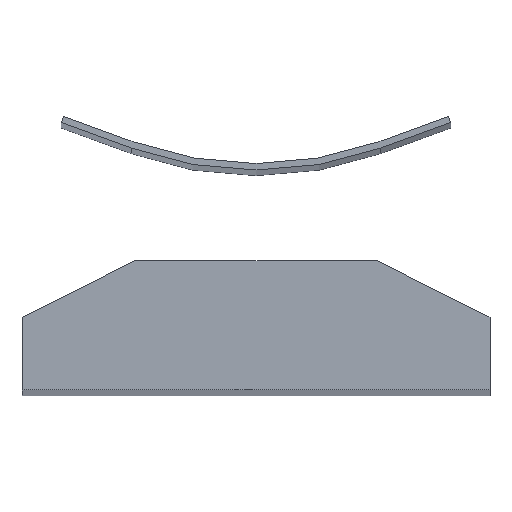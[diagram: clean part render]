
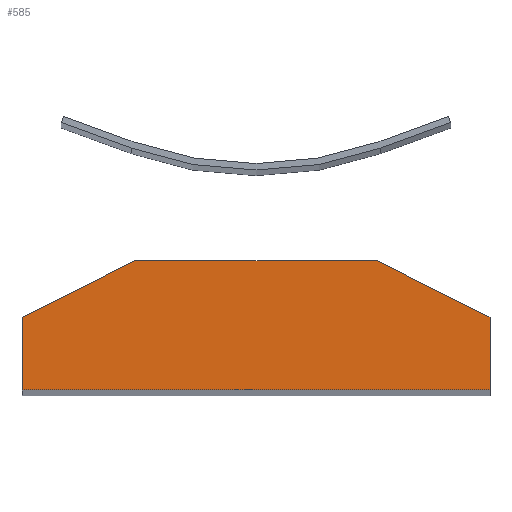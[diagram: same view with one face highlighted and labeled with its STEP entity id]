
A CAD part, top view. The second image highlights one B-rep face of the part: STEP entity #585.
In plain terms, the highlighted planar face has unit normal (0, 0, 1).
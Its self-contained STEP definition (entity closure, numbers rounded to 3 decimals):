
#1 = CARTESIAN_POINT ( 'NONE',  ( -150., 160., 2000. ) ) ;
#19 = CARTESIAN_POINT ( 'NONE',  ( 150., 160., 2000. ) ) ;
#39 = CARTESIAN_POINT ( 'NONE',  ( 290., 90., 2000. ) ) ;
#46 = DIRECTION ( 'NONE',  ( -0.894, 0.447, 0. ) ) ;
#67 = CARTESIAN_POINT ( 'NONE',  ( -290., 90., 2000. ) ) ;
#70 = DIRECTION ( 'NONE',  ( -1., 0., 0. ) ) ;
#71 = DIRECTION ( 'NONE',  ( -0.894, -0.447, 0. ) ) ;
#74 = DIRECTION ( 'NONE',  ( 1., 0., 0. ) ) ;
#84 = CARTESIAN_POINT ( 'NONE',  ( 0., 0., 2000. ) ) ;
#120 = CARTESIAN_POINT ( 'NONE',  ( -290., 0., 2000. ) ) ;
#148 = CARTESIAN_POINT ( 'NONE',  ( -290., 90., 2000. ) ) ;
#156 = DIRECTION ( 'NONE',  ( 0., -1., 0. ) ) ;
#162 = CARTESIAN_POINT ( 'NONE',  ( -290., 0., 2000. ) ) ;
#177 = FACE_OUTER_BOUND ( 'NONE', #446, .T. ) ;
#187 = DIRECTION ( 'NONE',  ( 0., 1., 0. ) ) ;
#193 = VERTEX_POINT ( 'NONE', #290 ) ;
#202 = CARTESIAN_POINT ( 'NONE',  ( 290., 90., 2000. ) ) ;
#203 = VECTOR ( 'NONE', #70, 1000. ) ;
#205 = VECTOR ( 'NONE', #71, 1000. ) ;
#208 = LINE ( 'NONE', #67, #205 ) ;
#213 = CARTESIAN_POINT ( 'NONE',  ( 150., 160., 2000. ) ) ;
#214 = LINE ( 'NONE', #1, #203 ) ;
#236 = LINE ( 'NONE', #213, #239 ) ;
#239 = VECTOR ( 'NONE', #46, 1000. ) ;
#240 = VECTOR ( 'NONE', #187, 1000. ) ;
#245 = LINE ( 'NONE', #202, #240 ) ;
#257 = VECTOR ( 'NONE', #74, 1000. ) ;
#260 = LINE ( 'NONE', #120, #257 ) ;
#285 = LINE ( 'NONE', #162, #293 ) ;
#286 = CARTESIAN_POINT ( 'NONE',  ( 290., 0., 2000. ) ) ;
#290 = CARTESIAN_POINT ( 'NONE',  ( -290., 0., 2000. ) ) ;
#293 = VECTOR ( 'NONE', #156, 1000. ) ;
#338 = ORIENTED_EDGE ( 'NONE', *, *, #552, .T. ) ;
#347 = CARTESIAN_POINT ( 'NONE',  ( -150., 160., 2000. ) ) ;
#377 = VERTEX_POINT ( 'NONE', #39 ) ;
#385 = DIRECTION ( 'NONE',  ( -1., 0., 0. ) ) ;
#403 = ORIENTED_EDGE ( 'NONE', *, *, #567, .T. ) ;
#409 = PLANE ( 'NONE',  #488 ) ;
#411 = ORIENTED_EDGE ( 'NONE', *, *, #565, .T. ) ;
#413 = VERTEX_POINT ( 'NONE', #286 ) ;
#419 = ORIENTED_EDGE ( 'NONE', *, *, #466, .T. ) ;
#424 = ORIENTED_EDGE ( 'NONE', *, *, #547, .T. ) ;
#427 = DIRECTION ( 'NONE',  ( 0., 0., -1. ) ) ;
#446 = EDGE_LOOP ( 'NONE', ( #419, #489, #424, #338, #403, #411 ) ) ;
#466 = EDGE_CURVE ( 'NONE', #574, #193, #285, .T. ) ;
#488 = AXIS2_PLACEMENT_3D ( 'NONE', #84, #427, #385 ) ;
#489 = ORIENTED_EDGE ( 'NONE', *, *, #540, .T. ) ;
#503 = VERTEX_POINT ( 'NONE', #19 ) ;
#540 = EDGE_CURVE ( 'NONE', #193, #413, #260, .T. ) ;
#547 = EDGE_CURVE ( 'NONE', #413, #377, #245, .T. ) ;
#552 = EDGE_CURVE ( 'NONE', #377, #503, #236, .T. ) ;
#565 = EDGE_CURVE ( 'NONE', #573, #574, #208, .T. ) ;
#567 = EDGE_CURVE ( 'NONE', #503, #573, #214, .T. ) ;
#573 = VERTEX_POINT ( 'NONE', #347 ) ;
#574 = VERTEX_POINT ( 'NONE', #148 ) ;
#585 = ADVANCED_FACE ( 'NONE', ( #177 ), #409, .F. ) ;
